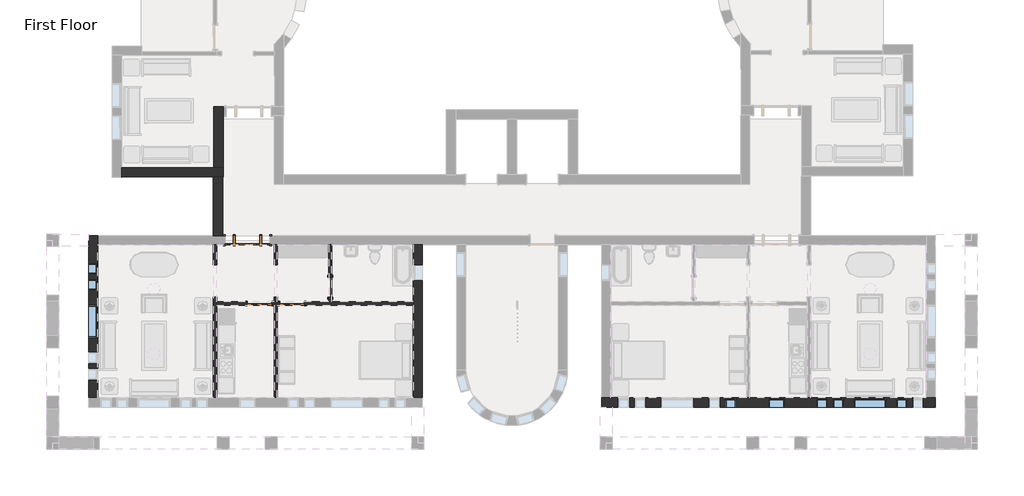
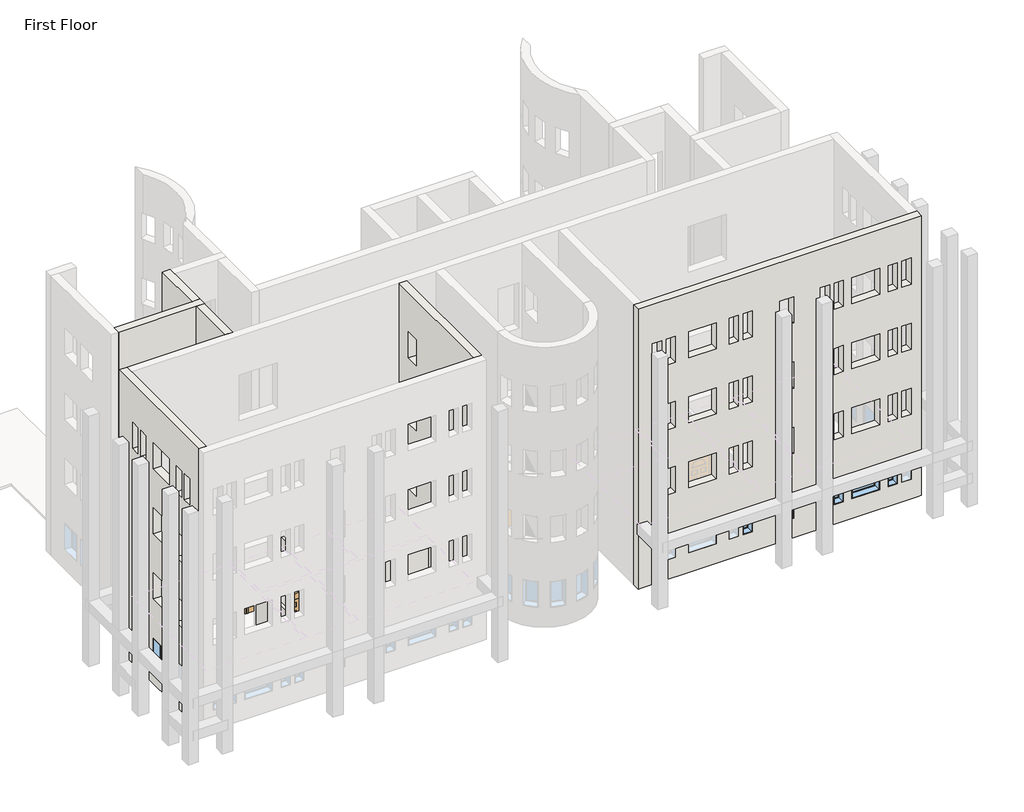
# One storey, part 3 of 21: 11 walls, 9 windows, 4 doors.
"""IFC4 building model written with IfcOpenShell, lengths in millimetres."""

from ifc_helpers import new_model, si_unit, frame, origin, origin_with_axes, place, context, project, spatial, polyline, outline, extrude, faceted_brep, transform, mapped, element, save
from components import door_829da954, door_2e3b4da2, door_4d6c7550, door_dba5aa2e, window_da97879f, window_d61ef850, window_ed80354a, window_6eb97611, window_d89bf842

model = new_model("IFC4")

# Units and contexts
model_context = context("Model", 3, world=origin())
ifc_project = project(units=[si_unit("LENGTHUNIT", "METRE", prefix="MILLI")], contexts=[model_context])

# Site, building, storey
site = spatial("IfcSite", under=ifc_project)
building = spatial("IfcBuilding", under=site)
storey = spatial("IfcBuildingStorey", under=building, Name="First Floor", Elevation=0.0)

# Doors
placement = place(None, origin())
door_shape = door_829da954(model_context)
element("IfcDoor", 1, ObjectType="Single-Decorative 2 : 36\" x 84\"", at=placement, inside=storey, context=model_context, shape_type="MappedRepresentation", body=[
    mapped(door_shape, transform((-24420.4839563, -30331.8808133, 0.0), x_axis=(1.0, 0.0, 0.0), y_axis=(0.0, 1.0, 0.0), z_axis=(0.0, 0.0, 1.0))),
])
door_2_shape = door_2e3b4da2(model_context)
element("IfcDoor", 2, ObjectType="Single-Decorative 2 : 36\" x 84\"", at=placement, inside=storey, context=model_context, shape_type="MappedRepresentation", body=[
    mapped(door_2_shape, transform((-23201.2839563, -30331.8808133, 0.0), x_axis=(-1.0, 0.0, 0.0), y_axis=(0.0, -1.0, 0.0), z_axis=(0.0, 0.0, 1.0))),
])
door_3_shape = door_4d6c7550(model_context)
element("IfcDoor", 3, ObjectType="Single-Flush : 30\" x 84\"", at=placement, inside=storey, context=model_context, shape_type="MappedRepresentation", body=[
    mapped(door_3_shape, transform((-21764.5964563, -29722.2808133, 0.0), x_axis=(0.0, -1.0, 0.0), y_axis=(1.0, 0.0, 0.0), z_axis=(0.0, 0.0, 1.0))),
])
door_4_shape = door_dba5aa2e(model_context)
element("IfcDoor", 4, ObjectType="Single-Raised Panel with Sidelights : 36\" x 84\"", at=placement, inside=storey, context=model_context, shape_type="MappedRepresentation", body=[
    mapped(door_4_shape, transform((-24877.6839563, -27958.5683133, 0.0), x_axis=(1.0, 0.0, 0.0), y_axis=(0.0, 1.0, 0.0), z_axis=(0.0, 0.0, 1.0))),
])

# Walls
element("IfcWall", 5, ObjectType="Exterior - Brick on Mtl. Stud", at=placement, inside=storey, context=model_context, shape_type="Brep", body=[
    faceted_brep([(-11569.6714563, -34230.7808133, 13106.4), (974.7535437, -34230.7808133, 13106.4), (974.7535437, -33878.3558133, 13106.4), (622.3285437, -33878.3558133, 13106.4), (-11217.2464563, -33878.3558133, 13106.4), (-11569.6714563, -33878.3558133, 13106.4), (-11569.6714563, -34230.7808133, 0.0), (-11382.3464563, -34230.7808133, 0.0), (787.4285437, -34230.7808133, 0.0), (974.7535437, -34230.7808133, 0.0), (-90.4589563, -34230.7808133, 8229.6), (-90.4589563, -34230.7808133, 7010.4), (-496.8589563, -34230.7808133, 7010.4), (-496.8589563, -34230.7808133, 8229.6), (519.1410437, -34230.7808133, 8229.6), (519.1410437, -34230.7808133, 7010.4), (112.7410437, -34230.7808133, 7010.4), (112.7410437, -34230.7808133, 8229.6), (-2884.4589563, -34230.7808133, 8229.6), (-2478.0589563, -34230.7808133, 8229.6), (-2478.0589563, -34230.7808133, 7010.4), (-2884.4589563, -34230.7808133, 7010.4), (-3494.0589563, -34230.7808133, 8229.6), (-3087.6589563, -34230.7808133, 8229.6), (-3087.6589563, -34230.7808133, 7010.4), (-3494.0589563, -34230.7808133, 7010.4), (-7126.2589563, -34230.7808133, 8229.6), (-7126.2589563, -34230.7808133, 7010.4), (-7532.6589563, -34230.7808133, 7010.4), (-7532.6589563, -34230.7808133, 8229.6), (-6516.6589563, -34230.7808133, 8229.6), (-6516.6589563, -34230.7808133, 7010.4), (-6923.0589563, -34230.7808133, 7010.4), (-6923.0589563, -34230.7808133, 8229.6), (-10326.6589563, -34230.7808133, 8229.6), (-9920.2589563, -34230.7808133, 8229.6), (-9920.2589563, -34230.7808133, 7010.4), (-10326.6589563, -34230.7808133, 7010.4), (-10936.2589563, -34230.7808133, 8229.6), (-10529.8589563, -34230.7808133, 8229.6), (-10529.8589563, -34230.7808133, 7010.4), (-10936.2589563, -34230.7808133, 7010.4), (-2097.0589563, -34230.7808133, 8229.6), (-877.8589563, -34230.7808133, 8229.6), (-877.8589563, -34230.7808133, 7010.4), (-2097.0589563, -34230.7808133, 7010.4), (-9336.0589563, -34230.7808133, 8229.6), (-8116.8589563, -34230.7808133, 8229.6), (-8116.8589563, -34230.7808133, 7010.4), (-9336.0589563, -34230.7808133, 7010.4), (-5297.4589563, -34230.7808133, 8229.6), (-4687.8589563, -34230.7808133, 8229.6), (-4687.8589563, -34230.7808133, 7010.4), (-5297.4589563, -34230.7808133, 7010.4), (-90.4589563, -34230.7808133, 5181.6), (-90.4589563, -34230.7808133, 3962.4), (-496.8589563, -34230.7808133, 3962.4), (-496.8589563, -34230.7808133, 5181.6), (519.1410437, -34230.7808133, 5181.6), (519.1410437, -34230.7808133, 3962.4), (112.7410437, -34230.7808133, 3962.4), (112.7410437, -34230.7808133, 5181.6), (-2884.4589563, -34230.7808133, 5181.6), (-2478.0589563, -34230.7808133, 5181.6), (-2478.0589563, -34230.7808133, 3962.4), (-2884.4589563, -34230.7808133, 3962.4), (-3494.0589563, -34230.7808133, 5181.6), (-3087.6589563, -34230.7808133, 5181.6), (-3087.6589563, -34230.7808133, 3962.4), (-3494.0589563, -34230.7808133, 3962.4), (-7126.2589563, -34230.7808133, 5181.6), (-7126.2589563, -34230.7808133, 3962.4), (-7532.6589563, -34230.7808133, 3962.4), (-7532.6589563, -34230.7808133, 5181.6), (-6516.6589563, -34230.7808133, 5181.6), (-6516.6589563, -34230.7808133, 3962.4), (-6923.0589563, -34230.7808133, 3962.4), (-6923.0589563, -34230.7808133, 5181.6), (-10326.6589563, -34230.7808133, 5181.6), (-9920.2589563, -34230.7808133, 5181.6), (-9920.2589563, -34230.7808133, 3962.4), (-10326.6589563, -34230.7808133, 3962.4), (-10936.2589563, -34230.7808133, 5181.6), (-10529.8589563, -34230.7808133, 5181.6), (-10529.8589563, -34230.7808133, 3962.4), (-10936.2589563, -34230.7808133, 3962.4), (-2097.0589563, -34230.7808133, 5181.6), (-877.8589563, -34230.7808133, 5181.6), (-877.8589563, -34230.7808133, 3962.4), (-2097.0589563, -34230.7808133, 3962.4), (-9336.0589563, -34230.7808133, 5181.6), (-8116.8589563, -34230.7808133, 5181.6), (-8116.8589563, -34230.7808133, 3962.4), (-9336.0589563, -34230.7808133, 3962.4), (-5297.4589563, -34230.7808133, 5181.6), (-4687.8589563, -34230.7808133, 5181.6), (-4687.8589563, -34230.7808133, 3962.4), (-5297.4589563, -34230.7808133, 3962.4), (-90.4589563, -34230.7808133, 11277.6), (-90.4589563, -34230.7808133, 10058.4), (-496.8589563, -34230.7808133, 10058.4), (-496.8589563, -34230.7808133, 11277.6), (519.1410437, -34230.7808133, 11277.6), (519.1410437, -34230.7808133, 10058.4), (112.7410437, -34230.7808133, 10058.4), (112.7410437, -34230.7808133, 11277.6), (-2884.4589563, -34230.7808133, 11277.6), (-2478.0589563, -34230.7808133, 11277.6), (-2478.0589563, -34230.7808133, 10058.4), (-2884.4589563, -34230.7808133, 10058.4), (-3494.0589563, -34230.7808133, 11277.6), (-3087.6589563, -34230.7808133, 11277.6), (-3087.6589563, -34230.7808133, 10058.4), (-3494.0589563, -34230.7808133, 10058.4), (-7126.2589563, -34230.7808133, 11277.6), (-7126.2589563, -34230.7808133, 10058.4), (-7532.6589563, -34230.7808133, 10058.4), (-7532.6589563, -34230.7808133, 11277.6), (-6516.6589563, -34230.7808133, 11277.6), (-6516.6589563, -34230.7808133, 10058.4), (-6923.0589563, -34230.7808133, 10058.4), (-6923.0589563, -34230.7808133, 11277.6), (-10326.6589563, -34230.7808133, 11277.6), (-9920.2589563, -34230.7808133, 11277.6), (-9920.2589563, -34230.7808133, 10058.4), (-10326.6589563, -34230.7808133, 10058.4), (-10936.2589563, -34230.7808133, 11277.6), (-10529.8589563, -34230.7808133, 11277.6), (-10529.8589563, -34230.7808133, 10058.4), (-10936.2589563, -34230.7808133, 10058.4), (-2097.0589563, -34230.7808133, 11277.6), (-877.8589563, -34230.7808133, 11277.6), (-877.8589563, -34230.7808133, 10058.4), (-2097.0589563, -34230.7808133, 10058.4), (-9336.0589563, -34230.7808133, 11277.6), (-8116.8589563, -34230.7808133, 11277.6), (-8116.8589563, -34230.7808133, 10058.4), (-9336.0589563, -34230.7808133, 10058.4), (-5297.4589563, -34230.7808133, 11277.6), (-4687.8589563, -34230.7808133, 11277.6), (-4687.8589563, -34230.7808133, 10058.4), (-5297.4589563, -34230.7808133, 10058.4), (-90.4589563, -34230.7808133, 2133.6), (-90.4589563, -34230.7808133, 914.4), (-496.8589563, -34230.7808133, 914.4), (-496.8589563, -34230.7808133, 2133.6), (519.1410437, -34230.7808133, 2133.6), (519.1410437, -34230.7808133, 914.4), (112.7410437, -34230.7808133, 914.4), (112.7410437, -34230.7808133, 2133.6), (-2884.4589563, -34230.7808133, 2133.6), (-2478.0589563, -34230.7808133, 2133.6), (-2478.0589563, -34230.7808133, 914.4), (-2884.4589563, -34230.7808133, 914.4), (-3494.0589563, -34230.7808133, 2133.6), (-3087.6589563, -34230.7808133, 2133.6), (-3087.6589563, -34230.7808133, 914.4), (-3494.0589563, -34230.7808133, 914.4), (-7126.2589563, -34230.7808133, 2133.6), (-7126.2589563, -34230.7808133, 914.4), (-7532.6589563, -34230.7808133, 914.4), (-7532.6589563, -34230.7808133, 2133.6), (-6516.6589563, -34230.7808133, 2133.6), (-6516.6589563, -34230.7808133, 914.4), (-6923.0589563, -34230.7808133, 914.4), (-6923.0589563, -34230.7808133, 2133.6), (-10326.6589563, -34230.7808133, 2133.6), (-9920.2589563, -34230.7808133, 2133.6), (-9920.2589563, -34230.7808133, 914.4), (-10326.6589563, -34230.7808133, 914.4), (-10936.2589563, -34230.7808133, 2133.6), (-10529.8589563, -34230.7808133, 2133.6), (-10529.8589563, -34230.7808133, 914.4), (-10936.2589563, -34230.7808133, 914.4), (-2097.0589563, -34230.7808133, 2133.6), (-877.8589563, -34230.7808133, 2133.6), (-877.8589563, -34230.7808133, 914.4), (-2097.0589563, -34230.7808133, 914.4), (-9336.0589563, -34230.7808133, 2133.6), (-8116.8589563, -34230.7808133, 2133.6), (-8116.8589563, -34230.7808133, 914.4), (-9336.0589563, -34230.7808133, 914.4), (-5297.4589563, -34230.7808133, 2133.6), (-4687.8589563, -34230.7808133, 2133.6), (-4687.8589563, -34230.7808133, 914.4), (-5297.4589563, -34230.7808133, 914.4), (-11569.6714563, -33878.3558133, 0.0), (974.7535437, -33878.3558133, 0.0), (787.4285437, -33878.3558133, 0.0), (622.3285437, -33878.3558133, 0.0), (-3709.9589563, -33878.3558133, 0.0), (-3836.9589563, -33878.3558133, 0.0), (-5995.9589563, -33878.3558133, 0.0), (-6122.9589563, -33878.3558133, 0.0), (-11217.2464563, -33878.3558133, 0.0), (-11382.3464563, -33878.3558133, 0.0), (-90.4589563, -33878.3558133, 8229.6), (-496.8589563, -33878.3558133, 8229.6), (-496.8589563, -33878.3558133, 7010.4), (-90.4589563, -33878.3558133, 7010.4), (519.1410437, -33878.3558133, 8229.6), (112.7410437, -33878.3558133, 8229.6), (112.7410437, -33878.3558133, 7010.4), (519.1410437, -33878.3558133, 7010.4), (-2884.4589563, -33878.3558133, 8229.6), (-2884.4589563, -33878.3558133, 7010.4), (-2478.0589563, -33878.3558133, 7010.4), (-2478.0589563, -33878.3558133, 8229.6), (-3494.0589563, -33878.3558133, 8229.6), (-3494.0589563, -33878.3558133, 7010.4), (-3087.6589563, -33878.3558133, 7010.4), (-3087.6589563, -33878.3558133, 8229.6), (-7126.2589563, -33878.3558133, 8229.6), (-7532.6589563, -33878.3558133, 8229.6), (-7532.6589563, -33878.3558133, 7010.4), (-7126.2589563, -33878.3558133, 7010.4), (-6516.6589563, -33878.3558133, 8229.6), (-6923.0589563, -33878.3558133, 8229.6), (-6923.0589563, -33878.3558133, 7010.4), (-6516.6589563, -33878.3558133, 7010.4), (-10326.6589563, -33878.3558133, 8229.6), (-10326.6589563, -33878.3558133, 7010.4), (-9920.2589563, -33878.3558133, 7010.4), (-9920.2589563, -33878.3558133, 8229.6), (-10936.2589563, -33878.3558133, 8229.6), (-10936.2589563, -33878.3558133, 7010.4), (-10529.8589563, -33878.3558133, 7010.4), (-10529.8589563, -33878.3558133, 8229.6), (-2097.0589563, -33878.3558133, 8229.6), (-2097.0589563, -33878.3558133, 7010.4), (-877.8589563, -33878.3558133, 7010.4), (-877.8589563, -33878.3558133, 8229.6), (-9336.0589563, -33878.3558133, 8229.6), (-9336.0589563, -33878.3558133, 7010.4), (-8116.8589563, -33878.3558133, 7010.4), (-8116.8589563, -33878.3558133, 8229.6), (-5297.4589563, -33878.3558133, 8229.6), (-5297.4589563, -33878.3558133, 7010.4), (-4687.8589563, -33878.3558133, 7010.4), (-4687.8589563, -33878.3558133, 8229.6), (-90.4589563, -33878.3558133, 5181.6), (-496.8589563, -33878.3558133, 5181.6), (-496.8589563, -33878.3558133, 3962.4), (-90.4589563, -33878.3558133, 3962.4), (519.1410437, -33878.3558133, 5181.6), (112.7410437, -33878.3558133, 5181.6), (112.7410437, -33878.3558133, 3962.4), (519.1410437, -33878.3558133, 3962.4), (-2884.4589563, -33878.3558133, 5181.6), (-2884.4589563, -33878.3558133, 3962.4), (-2478.0589563, -33878.3558133, 3962.4), (-2478.0589563, -33878.3558133, 5181.6), (-3494.0589563, -33878.3558133, 5181.6), (-3494.0589563, -33878.3558133, 3962.4), (-3087.6589563, -33878.3558133, 3962.4), (-3087.6589563, -33878.3558133, 5181.6), (-7126.2589563, -33878.3558133, 5181.6), (-7532.6589563, -33878.3558133, 5181.6), (-7532.6589563, -33878.3558133, 3962.4), (-7126.2589563, -33878.3558133, 3962.4), (-6516.6589563, -33878.3558133, 5181.6), (-6923.0589563, -33878.3558133, 5181.6), (-6923.0589563, -33878.3558133, 3962.4), (-6516.6589563, -33878.3558133, 3962.4), (-10326.6589563, -33878.3558133, 5181.6), (-10326.6589563, -33878.3558133, 3962.4), (-9920.2589563, -33878.3558133, 3962.4), (-9920.2589563, -33878.3558133, 5181.6), (-10936.2589563, -33878.3558133, 5181.6), (-10936.2589563, -33878.3558133, 3962.4), (-10529.8589563, -33878.3558133, 3962.4), (-10529.8589563, -33878.3558133, 5181.6), (-2097.0589563, -33878.3558133, 5181.6), (-2097.0589563, -33878.3558133, 3962.4), (-877.8589563, -33878.3558133, 3962.4), (-877.8589563, -33878.3558133, 5181.6), (-9336.0589563, -33878.3558133, 5181.6), (-9336.0589563, -33878.3558133, 3962.4), (-8116.8589563, -33878.3558133, 3962.4), (-8116.8589563, -33878.3558133, 5181.6), (-5297.4589563, -33878.3558133, 5181.6), (-5297.4589563, -33878.3558133, 3962.4), (-4687.8589563, -33878.3558133, 3962.4), (-4687.8589563, -33878.3558133, 5181.6), (-90.4589563, -33878.3558133, 11277.6), (-496.8589563, -33878.3558133, 11277.6), (-496.8589563, -33878.3558133, 10058.4), (-90.4589563, -33878.3558133, 10058.4), (519.1410437, -33878.3558133, 11277.6), (112.7410437, -33878.3558133, 11277.6), (112.7410437, -33878.3558133, 10058.4), (519.1410437, -33878.3558133, 10058.4), (-2884.4589563, -33878.3558133, 11277.6), (-2884.4589563, -33878.3558133, 10058.4), (-2478.0589563, -33878.3558133, 10058.4), (-2478.0589563, -33878.3558133, 11277.6), (-3494.0589563, -33878.3558133, 11277.6), (-3494.0589563, -33878.3558133, 10058.4), (-3087.6589563, -33878.3558133, 10058.4), (-3087.6589563, -33878.3558133, 11277.6), (-7126.2589563, -33878.3558133, 11277.6), (-7532.6589563, -33878.3558133, 11277.6), (-7532.6589563, -33878.3558133, 10058.4), (-7126.2589563, -33878.3558133, 10058.4), (-6516.6589563, -33878.3558133, 11277.6), (-6923.0589563, -33878.3558133, 11277.6), (-6923.0589563, -33878.3558133, 10058.4), (-6516.6589563, -33878.3558133, 10058.4), (-10326.6589563, -33878.3558133, 11277.6), (-10326.6589563, -33878.3558133, 10058.4), (-9920.2589563, -33878.3558133, 10058.4), (-9920.2589563, -33878.3558133, 11277.6), (-10936.2589563, -33878.3558133, 11277.6), (-10936.2589563, -33878.3558133, 10058.4), (-10529.8589563, -33878.3558133, 10058.4), (-10529.8589563, -33878.3558133, 11277.6), (-2097.0589563, -33878.3558133, 11277.6), (-2097.0589563, -33878.3558133, 10058.4), (-877.8589563, -33878.3558133, 10058.4), (-877.8589563, -33878.3558133, 11277.6), (-9336.0589563, -33878.3558133, 11277.6), (-9336.0589563, -33878.3558133, 10058.4), (-8116.8589563, -33878.3558133, 10058.4), (-8116.8589563, -33878.3558133, 11277.6), (-5297.4589563, -33878.3558133, 11277.6), (-5297.4589563, -33878.3558133, 10058.4), (-4687.8589563, -33878.3558133, 10058.4), (-4687.8589563, -33878.3558133, 11277.6), (-90.4589563, -33878.3558133, 2133.6), (-496.8589563, -33878.3558133, 2133.6), (-496.8589563, -33878.3558133, 914.4), (-90.4589563, -33878.3558133, 914.4), (519.1410437, -33878.3558133, 2133.6), (112.7410437, -33878.3558133, 2133.6), (112.7410437, -33878.3558133, 914.4), (519.1410437, -33878.3558133, 914.4), (-2884.4589563, -33878.3558133, 2133.6), (-2884.4589563, -33878.3558133, 914.4), (-2478.0589563, -33878.3558133, 914.4), (-2478.0589563, -33878.3558133, 2133.6), (-3494.0589563, -33878.3558133, 2133.6), (-3494.0589563, -33878.3558133, 914.4), (-3087.6589563, -33878.3558133, 914.4), (-3087.6589563, -33878.3558133, 2133.6), (-7126.2589563, -33878.3558133, 2133.6), (-7532.6589563, -33878.3558133, 2133.6), (-7532.6589563, -33878.3558133, 914.4), (-7126.2589563, -33878.3558133, 914.4), (-6516.6589563, -33878.3558133, 2133.6), (-6923.0589563, -33878.3558133, 2133.6), (-6923.0589563, -33878.3558133, 914.4), (-6516.6589563, -33878.3558133, 914.4), (-10326.6589563, -33878.3558133, 2133.6), (-10326.6589563, -33878.3558133, 914.4), (-9920.2589563, -33878.3558133, 914.4), (-9920.2589563, -33878.3558133, 2133.6), (-10936.2589563, -33878.3558133, 2133.6), (-10936.2589563, -33878.3558133, 914.4), (-10529.8589563, -33878.3558133, 914.4), (-10529.8589563, -33878.3558133, 2133.6), (-2097.0589563, -33878.3558133, 2133.6), (-2097.0589563, -33878.3558133, 914.4), (-877.8589563, -33878.3558133, 914.4), (-877.8589563, -33878.3558133, 2133.6), (-9336.0589563, -33878.3558133, 2133.6), (-9336.0589563, -33878.3558133, 914.4), (-8116.8589563, -33878.3558133, 914.4), (-8116.8589563, -33878.3558133, 2133.6), (-5297.4589563, -33878.3558133, 2133.6), (-5297.4589563, -33878.3558133, 914.4), (-4687.8589563, -33878.3558133, 914.4), (-4687.8589563, -33878.3558133, 2133.6), (974.7535437, -34043.4558133, 0.0), (-11569.6714563, -34043.4558133, 0.0), (787.4285437, -34043.4558133, 0.0), (-11382.3464563, -34043.4558133, 0.0)], [[[0, 1, 2, 3, 4, 5]], [[6, 7, 8, 9, 1, 0], [10, 11, 12, 13], [14, 15, 16, 17], [18, 19, 20, 21], [22, 23, 24, 25], [26, 27, 28, 29], [30, 31, 32, 33], [34, 35, 36, 37], [38, 39, 40, 41], [42, 43, 44, 45], [46, 47, 48, 49], [50, 51, 52, 53], [54, 55, 56, 57], [58, 59, 60, 61], [62, 63, 64, 65], [66, 67, 68, 69], [70, 71, 72, 73], [74, 75, 76, 77], [78, 79, 80, 81], [82, 83, 84, 85], [86, 87, 88, 89], [90, 91, 92, 93], [94, 95, 96, 97], [98, 99, 100, 101], [102, 103, 104, 105], [106, 107, 108, 109], [110, 111, 112, 113], [114, 115, 116, 117], [118, 119, 120, 121], [122, 123, 124, 125], [126, 127, 128, 129], [130, 131, 132, 133], [134, 135, 136, 137], [138, 139, 140, 141], [142, 143, 144, 145], [146, 147, 148, 149], [150, 151, 152, 153], [154, 155, 156, 157], [158, 159, 160, 161], [162, 163, 164, 165], [166, 167, 168, 169], [170, 171, 172, 173], [174, 175, 176, 177], [178, 179, 180, 181], [182, 183, 184, 185]], [[186, 5, 4, 3, 2, 187, 188, 189, 190, 191, 192, 193, 194, 195], [196, 197, 198, 199], [200, 201, 202, 203], [204, 205, 206, 207], [208, 209, 210, 211], [212, 213, 214, 215], [216, 217, 218, 219], [220, 221, 222, 223], [224, 225, 226, 227], [228, 229, 230, 231], [232, 233, 234, 235], [236, 237, 238, 239], [240, 241, 242, 243], [244, 245, 246, 247], [248, 249, 250, 251], [252, 253, 254, 255], [256, 257, 258, 259], [260, 261, 262, 263], [264, 265, 266, 267], [268, 269, 270, 271], [272, 273, 274, 275], [276, 277, 278, 279], [280, 281, 282, 283], [284, 285, 286, 287], [288, 289, 290, 291], [292, 293, 294, 295], [296, 297, 298, 299], [300, 301, 302, 303], [304, 305, 306, 307], [308, 309, 310, 311], [312, 313, 314, 315], [316, 317, 318, 319], [320, 321, 322, 323], [324, 325, 326, 327], [328, 329, 330, 331], [332, 333, 334, 335], [336, 337, 338, 339], [340, 341, 342, 343], [344, 345, 346, 347], [348, 349, 350, 351], [352, 353, 354, 355], [356, 357, 358, 359], [360, 361, 362, 363], [364, 365, 366, 367], [368, 369, 370, 371]], [[1, 9, 372, 187, 2]], [[6, 0, 5, 186, 373]], [[374, 188, 187, 372]], [[9, 8, 374, 372]], [[8, 7, 375, 374]], [[373, 186, 195, 375]], [[7, 6, 373, 375]], [[375, 195, 194, 193, 192, 191, 190, 189, 188, 374]], [[11, 10, 196, 199]], [[12, 11, 199, 198]], [[13, 12, 198, 197]], [[10, 13, 197, 196]], [[15, 14, 200, 203]], [[16, 15, 203, 202]], [[17, 16, 202, 201]], [[14, 17, 201, 200]], [[205, 204, 18, 21]], [[206, 205, 21, 20]], [[207, 206, 20, 19]], [[204, 207, 19, 18]], [[209, 208, 22, 25]], [[210, 209, 25, 24]], [[211, 210, 24, 23]], [[208, 211, 23, 22]], [[27, 26, 212, 215]], [[28, 27, 215, 214]], [[29, 28, 214, 213]], [[26, 29, 213, 212]], [[31, 30, 216, 219]], [[32, 31, 219, 218]], [[33, 32, 218, 217]], [[30, 33, 217, 216]], [[221, 220, 34, 37]], [[222, 221, 37, 36]], [[223, 222, 36, 35]], [[220, 223, 35, 34]], [[225, 224, 38, 41]], [[226, 225, 41, 40]], [[227, 226, 40, 39]], [[224, 227, 39, 38]], [[229, 228, 42, 45]], [[230, 229, 45, 44]], [[231, 230, 44, 43]], [[228, 231, 43, 42]], [[233, 232, 46, 49]], [[234, 233, 49, 48]], [[235, 234, 48, 47]], [[232, 235, 47, 46]], [[237, 236, 50, 53]], [[238, 237, 53, 52]], [[239, 238, 52, 51]], [[236, 239, 51, 50]], [[55, 54, 240, 243]], [[56, 55, 243, 242]], [[57, 56, 242, 241]], [[54, 57, 241, 240]], [[59, 58, 244, 247]], [[60, 59, 247, 246]], [[61, 60, 246, 245]], [[58, 61, 245, 244]], [[249, 248, 62, 65]], [[250, 249, 65, 64]], [[251, 250, 64, 63]], [[248, 251, 63, 62]], [[253, 252, 66, 69]], [[254, 253, 69, 68]], [[255, 254, 68, 67]], [[252, 255, 67, 66]], [[71, 70, 256, 259]], [[72, 71, 259, 258]], [[73, 72, 258, 257]], [[70, 73, 257, 256]], [[75, 74, 260, 263]], [[76, 75, 263, 262]], [[77, 76, 262, 261]], [[74, 77, 261, 260]], [[265, 264, 78, 81]], [[266, 265, 81, 80]], [[267, 266, 80, 79]], [[264, 267, 79, 78]], [[269, 268, 82, 85]], [[270, 269, 85, 84]], [[271, 270, 84, 83]], [[268, 271, 83, 82]], [[273, 272, 86, 89]], [[274, 273, 89, 88]], [[275, 274, 88, 87]], [[272, 275, 87, 86]], [[277, 276, 90, 93]], [[278, 277, 93, 92]], [[279, 278, 92, 91]], [[276, 279, 91, 90]], [[281, 280, 94, 97]], [[282, 281, 97, 96]], [[283, 282, 96, 95]], [[280, 283, 95, 94]], [[99, 98, 284, 287]], [[100, 99, 287, 286]], [[101, 100, 286, 285]], [[98, 101, 285, 284]], [[103, 102, 288, 291]], [[104, 103, 291, 290]], [[105, 104, 290, 289]], [[102, 105, 289, 288]], [[293, 292, 106, 109]], [[294, 293, 109, 108]], [[295, 294, 108, 107]], [[292, 295, 107, 106]], [[297, 296, 110, 113]], [[298, 297, 113, 112]], [[299, 298, 112, 111]], [[296, 299, 111, 110]], [[115, 114, 300, 303]], [[116, 115, 303, 302]], [[117, 116, 302, 301]], [[114, 117, 301, 300]], [[119, 118, 304, 307]], [[120, 119, 307, 306]], [[121, 120, 306, 305]], [[118, 121, 305, 304]], [[309, 308, 122, 125]], [[310, 309, 125, 124]], [[311, 310, 124, 123]], [[308, 311, 123, 122]], [[313, 312, 126, 129]], [[314, 313, 129, 128]], [[315, 314, 128, 127]], [[312, 315, 127, 126]], [[317, 316, 130, 133]], [[318, 317, 133, 132]], [[319, 318, 132, 131]], [[316, 319, 131, 130]], [[321, 320, 134, 137]], [[322, 321, 137, 136]], [[323, 322, 136, 135]], [[320, 323, 135, 134]], [[325, 324, 138, 141]], [[326, 325, 141, 140]], [[327, 326, 140, 139]], [[324, 327, 139, 138]], [[143, 142, 328, 331]], [[144, 143, 331, 330]], [[145, 144, 330, 329]], [[142, 145, 329, 328]], [[147, 146, 332, 335]], [[148, 147, 335, 334]], [[149, 148, 334, 333]], [[146, 149, 333, 332]], [[337, 336, 150, 153]], [[338, 337, 153, 152]], [[339, 338, 152, 151]], [[336, 339, 151, 150]], [[341, 340, 154, 157]], [[342, 341, 157, 156]], [[343, 342, 156, 155]], [[340, 343, 155, 154]], [[159, 158, 344, 347]], [[160, 159, 347, 346]], [[161, 160, 346, 345]], [[158, 161, 345, 344]], [[163, 162, 348, 351]], [[164, 163, 351, 350]], [[165, 164, 350, 349]], [[162, 165, 349, 348]], [[353, 352, 166, 169]], [[354, 353, 169, 168]], [[355, 354, 168, 167]], [[352, 355, 167, 166]], [[357, 356, 170, 173]], [[358, 357, 173, 172]], [[359, 358, 172, 171]], [[356, 359, 171, 170]], [[361, 360, 174, 177]], [[362, 361, 177, 176]], [[363, 362, 176, 175]], [[360, 363, 175, 174]], [[365, 364, 178, 181]], [[366, 365, 181, 180]], [[367, 366, 180, 179]], [[364, 367, 179, 178]], [[369, 368, 182, 185]], [[370, 369, 185, 184]], [[371, 370, 184, 183]], [[368, 371, 183, 182]]]),
])
element("IfcWall", 6, ObjectType="Exterior - Brick on Mtl. Stud", at=placement, inside=storey, context=model_context, shape_type="SweptSolid", body=[
    extrude(outline(polyline([(-26160.3839563, -27782.3558133), (-26160.3839563, -25578.8852222), (-25807.9589563, -25578.0828813), (-25807.9589563, -27782.3558133), (-26160.3839563, -27782.3558133)])), origin_with_axes(), (0.0, 0.0, 1.0), 13106.4),
])
element("IfcWall", 7, ObjectType="Exterior - Brick on Mtl. Stud", at=placement, inside=storey, context=model_context, shape_type="Brep", body=[
    faceted_brep([(-30492.6714563, -33878.3558133, 13106.4), (-30492.6714563, -28134.7808133, 13106.4), (-30492.6714563, -27782.3558133, 13106.4), (-30845.0964563, -27782.3558133, 13106.4), (-30845.0964563, -33878.3558133, 13106.4), (-30492.6714563, -33878.3558133, 0.0), (-30492.6714563, -28134.7808133, 0.0), (-30492.6714563, -27969.6808133, 0.0), (-30492.6714563, -27782.3558133, 0.0), (-30492.6714563, -29431.7683133, 8229.6), (-30492.6714563, -29431.7683133, 7010.4), (-30492.6714563, -29838.1683133, 7010.4), (-30492.6714563, -29838.1683133, 8229.6), (-30492.6714563, -28822.1683133, 8229.6), (-30492.6714563, -28822.1683133, 7010.4), (-30492.6714563, -29228.5683133, 7010.4), (-30492.6714563, -29228.5683133, 8229.6), (-30492.6714563, -32581.3683133, 8229.6), (-30492.6714563, -32174.9683133, 8229.6), (-30492.6714563, -32174.9683133, 7010.4), (-30492.6714563, -32581.3683133, 7010.4), (-30492.6714563, -33190.9683133, 8229.6), (-30492.6714563, -32784.5683133, 8229.6), (-30492.6714563, -32784.5683133, 7010.4), (-30492.6714563, -33190.9683133, 7010.4), (-30492.6714563, -31616.1683133, 8229.6), (-30492.6714563, -30396.9683133, 8229.6), (-30492.6714563, -30396.9683133, 7010.4), (-30492.6714563, -31616.1683133, 7010.4), (-30492.6714563, -29431.7683133, 5181.6), (-30492.6714563, -29431.7683133, 3962.4), (-30492.6714563, -29838.1683133, 3962.4), (-30492.6714563, -29838.1683133, 5181.6), (-30492.6714563, -28822.1683133, 5181.6), (-30492.6714563, -28822.1683133, 3962.4), (-30492.6714563, -29228.5683133, 3962.4), (-30492.6714563, -29228.5683133, 5181.6), (-30492.6714563, -32581.3683133, 5181.6), (-30492.6714563, -32174.9683133, 5181.6), (-30492.6714563, -32174.9683133, 3962.4), (-30492.6714563, -32581.3683133, 3962.4), (-30492.6714563, -33190.9683133, 5181.6), (-30492.6714563, -32784.5683133, 5181.6), (-30492.6714563, -32784.5683133, 3962.4), (-30492.6714563, -33190.9683133, 3962.4), (-30492.6714563, -31616.1683133, 5181.6), (-30492.6714563, -30396.9683133, 5181.6), (-30492.6714563, -30396.9683133, 3962.4), (-30492.6714563, -31616.1683133, 3962.4), (-30492.6714563, -29431.7683133, 11277.6), (-30492.6714563, -29431.7683133, 10058.4), (-30492.6714563, -29838.1683133, 10058.4), (-30492.6714563, -29838.1683133, 11277.6), (-30492.6714563, -28822.1683133, 11277.6), (-30492.6714563, -28822.1683133, 10058.4), (-30492.6714563, -29228.5683133, 10058.4), (-30492.6714563, -29228.5683133, 11277.6), (-30492.6714563, -32581.3683133, 11277.6), (-30492.6714563, -32174.9683133, 11277.6), (-30492.6714563, -32174.9683133, 10058.4), (-30492.6714563, -32581.3683133, 10058.4), (-30492.6714563, -33190.9683133, 11277.6), (-30492.6714563, -32784.5683133, 11277.6), (-30492.6714563, -32784.5683133, 10058.4), (-30492.6714563, -33190.9683133, 10058.4), (-30492.6714563, -31616.1683133, 11277.6), (-30492.6714563, -30396.9683133, 11277.6), (-30492.6714563, -30396.9683133, 10058.4), (-30492.6714563, -31616.1683133, 10058.4), (-30492.6714563, -29431.7683133, 2133.6), (-30492.6714563, -29431.7683133, 914.4), (-30492.6714563, -29838.1683133, 914.4), (-30492.6714563, -29838.1683133, 2133.6), (-30492.6714563, -28822.1683133, 2133.6), (-30492.6714563, -28822.1683133, 914.4), (-30492.6714563, -29228.5683133, 914.4), (-30492.6714563, -29228.5683133, 2133.6), (-30492.6714563, -32581.3683133, 2133.6), (-30492.6714563, -32174.9683133, 2133.6), (-30492.6714563, -32174.9683133, 914.4), (-30492.6714563, -32581.3683133, 914.4), (-30492.6714563, -33190.9683133, 2133.6), (-30492.6714563, -32784.5683133, 2133.6), (-30492.6714563, -32784.5683133, 914.4), (-30492.6714563, -33190.9683133, 914.4), (-30492.6714563, -31616.1683133, 2133.6), (-30492.6714563, -30396.9683133, 2133.6), (-30492.6714563, -30396.9683133, 914.4), (-30492.6714563, -31616.1683133, 914.4), (-30845.0964563, -33878.3558133, 0.0), (-30845.0964563, -27782.3558133, 0.0), (-30845.0964563, -27969.6808133, 0.0), (-30845.0964563, -29431.7683133, 8229.6), (-30845.0964563, -29838.1683133, 8229.6), (-30845.0964563, -29838.1683133, 7010.4), (-30845.0964563, -29431.7683133, 7010.4), (-30845.0964563, -28822.1683133, 8229.6), (-30845.0964563, -29228.5683133, 8229.6), (-30845.0964563, -29228.5683133, 7010.4), (-30845.0964563, -28822.1683133, 7010.4), (-30845.0964563, -32581.3683133, 8229.6), (-30845.0964563, -32581.3683133, 7010.4), (-30845.0964563, -32174.9683133, 7010.4), (-30845.0964563, -32174.9683133, 8229.6), (-30845.0964563, -33190.9683133, 8229.6), (-30845.0964563, -33190.9683133, 7010.4), (-30845.0964563, -32784.5683133, 7010.4), (-30845.0964563, -32784.5683133, 8229.6), (-30845.0964563, -31616.1683133, 8229.6), (-30845.0964563, -31616.1683133, 7010.4), (-30845.0964563, -30396.9683133, 7010.4), (-30845.0964563, -30396.9683133, 8229.6), (-30845.0964563, -29431.7683133, 5181.6), (-30845.0964563, -29838.1683133, 5181.6), (-30845.0964563, -29838.1683133, 3962.4), (-30845.0964563, -29431.7683133, 3962.4), (-30845.0964563, -28822.1683133, 5181.6), (-30845.0964563, -29228.5683133, 5181.6), (-30845.0964563, -29228.5683133, 3962.4), (-30845.0964563, -28822.1683133, 3962.4), (-30845.0964563, -32581.3683133, 5181.6), (-30845.0964563, -32581.3683133, 3962.4), (-30845.0964563, -32174.9683133, 3962.4), (-30845.0964563, -32174.9683133, 5181.6), (-30845.0964563, -33190.9683133, 5181.6), (-30845.0964563, -33190.9683133, 3962.4), (-30845.0964563, -32784.5683133, 3962.4), (-30845.0964563, -32784.5683133, 5181.6), (-30845.0964563, -31616.1683133, 5181.6), (-30845.0964563, -31616.1683133, 3962.4), (-30845.0964563, -30396.9683133, 3962.4), (-30845.0964563, -30396.9683133, 5181.6), (-30845.0964563, -29431.7683133, 11277.6), (-30845.0964563, -29838.1683133, 11277.6), (-30845.0964563, -29838.1683133, 10058.4), (-30845.0964563, -29431.7683133, 10058.4), (-30845.0964563, -28822.1683133, 11277.6), (-30845.0964563, -29228.5683133, 11277.6), (-30845.0964563, -29228.5683133, 10058.4), (-30845.0964563, -28822.1683133, 10058.4), (-30845.0964563, -32581.3683133, 11277.6), (-30845.0964563, -32581.3683133, 10058.4), (-30845.0964563, -32174.9683133, 10058.4), (-30845.0964563, -32174.9683133, 11277.6), (-30845.0964563, -33190.9683133, 11277.6), (-30845.0964563, -33190.9683133, 10058.4), (-30845.0964563, -32784.5683133, 10058.4), (-30845.0964563, -32784.5683133, 11277.6), (-30845.0964563, -31616.1683133, 11277.6), (-30845.0964563, -31616.1683133, 10058.4), (-30845.0964563, -30396.9683133, 10058.4), (-30845.0964563, -30396.9683133, 11277.6), (-30845.0964563, -29431.7683133, 2133.6), (-30845.0964563, -29838.1683133, 2133.6), (-30845.0964563, -29838.1683133, 914.4), (-30845.0964563, -29431.7683133, 914.4), (-30845.0964563, -28822.1683133, 2133.6), (-30845.0964563, -29228.5683133, 2133.6), (-30845.0964563, -29228.5683133, 914.4), (-30845.0964563, -28822.1683133, 914.4), (-30845.0964563, -32581.3683133, 2133.6), (-30845.0964563, -32581.3683133, 914.4), (-30845.0964563, -32174.9683133, 914.4), (-30845.0964563, -32174.9683133, 2133.6), (-30845.0964563, -33190.9683133, 2133.6), (-30845.0964563, -33190.9683133, 914.4), (-30845.0964563, -32784.5683133, 914.4), (-30845.0964563, -32784.5683133, 2133.6), (-30845.0964563, -31616.1683133, 2133.6), (-30845.0964563, -31616.1683133, 914.4), (-30845.0964563, -30396.9683133, 914.4), (-30845.0964563, -30396.9683133, 2133.6), (-30657.7714563, -33878.3558133, 0.0), (-30657.7714563, -27969.6808133, 0.0), (-30657.7714563, -27782.3558133, 0.0)], [[[0, 1, 2, 3, 4]], [[5, 6, 7, 8, 2, 1, 0], [9, 10, 11, 12], [13, 14, 15, 16], [17, 18, 19, 20], [21, 22, 23, 24], [25, 26, 27, 28], [29, 30, 31, 32], [33, 34, 35, 36], [37, 38, 39, 40], [41, 42, 43, 44], [45, 46, 47, 48], [49, 50, 51, 52], [53, 54, 55, 56], [57, 58, 59, 60], [61, 62, 63, 64], [65, 66, 67, 68], [69, 70, 71, 72], [73, 74, 75, 76], [77, 78, 79, 80], [81, 82, 83, 84], [85, 86, 87, 88]], [[89, 4, 3, 90, 91], [92, 93, 94, 95], [96, 97, 98, 99], [100, 101, 102, 103], [104, 105, 106, 107], [108, 109, 110, 111], [112, 113, 114, 115], [116, 117, 118, 119], [120, 121, 122, 123], [124, 125, 126, 127], [128, 129, 130, 131], [132, 133, 134, 135], [136, 137, 138, 139], [140, 141, 142, 143], [144, 145, 146, 147], [148, 149, 150, 151], [152, 153, 154, 155], [156, 157, 158, 159], [160, 161, 162, 163], [164, 165, 166, 167], [168, 169, 170, 171]], [[5, 0, 4, 89, 172]], [[172, 89, 91, 173]], [[8, 7, 173, 174]], [[173, 91, 90, 174]], [[7, 6, 5, 172, 173]], [[2, 8, 174, 90, 3]], [[10, 9, 92, 95]], [[11, 10, 95, 94]], [[12, 11, 94, 93]], [[9, 12, 93, 92]], [[14, 13, 96, 99]], [[15, 14, 99, 98]], [[16, 15, 98, 97]], [[13, 16, 97, 96]], [[101, 100, 17, 20]], [[102, 101, 20, 19]], [[103, 102, 19, 18]], [[100, 103, 18, 17]], [[105, 104, 21, 24]], [[106, 105, 24, 23]], [[107, 106, 23, 22]], [[104, 107, 22, 21]], [[109, 108, 25, 28]], [[110, 109, 28, 27]], [[111, 110, 27, 26]], [[108, 111, 26, 25]], [[30, 29, 112, 115]], [[31, 30, 115, 114]], [[32, 31, 114, 113]], [[29, 32, 113, 112]], [[34, 33, 116, 119]], [[35, 34, 119, 118]], [[36, 35, 118, 117]], [[33, 36, 117, 116]], [[121, 120, 37, 40]], [[122, 121, 40, 39]], [[123, 122, 39, 38]], [[120, 123, 38, 37]], [[125, 124, 41, 44]], [[126, 125, 44, 43]], [[127, 126, 43, 42]], [[124, 127, 42, 41]], [[129, 128, 45, 48]], [[130, 129, 48, 47]], [[131, 130, 47, 46]], [[128, 131, 46, 45]], [[50, 49, 132, 135]], [[51, 50, 135, 134]], [[52, 51, 134, 133]], [[49, 52, 133, 132]], [[54, 53, 136, 139]], [[55, 54, 139, 138]], [[56, 55, 138, 137]], [[53, 56, 137, 136]], [[141, 140, 57, 60]], [[142, 141, 60, 59]], [[143, 142, 59, 58]], [[140, 143, 58, 57]], [[145, 144, 61, 64]], [[146, 145, 64, 63]], [[147, 146, 63, 62]], [[144, 147, 62, 61]], [[149, 148, 65, 68]], [[150, 149, 68, 67]], [[151, 150, 67, 66]], [[148, 151, 66, 65]], [[70, 69, 152, 155]], [[71, 70, 155, 154]], [[72, 71, 154, 153]], [[69, 72, 153, 152]], [[74, 73, 156, 159]], [[75, 74, 159, 158]], [[76, 75, 158, 157]], [[73, 76, 157, 156]], [[161, 160, 77, 80]], [[162, 161, 80, 79]], [[163, 162, 79, 78]], [[160, 163, 78, 77]], [[165, 164, 81, 84]], [[166, 165, 84, 83]], [[167, 166, 83, 82]], [[164, 167, 82, 81]], [[169, 168, 85, 88]], [[170, 169, 88, 87]], [[171, 170, 87, 86]], [[168, 171, 86, 85]]]),
])
element("IfcWall", 8, ObjectType="Exterior - Brick on Mtl. Stud", at=placement, inside=storey, context=model_context, shape_type="Brep", body=[
    faceted_brep([(-18653.0964563, -28134.7808133, 13106.4), (-18653.0964563, -33878.3558133, 13106.4), (-18300.6714563, -33878.3558133, 13106.4), (-18300.6714563, -28134.7808133, 13106.4), (-18653.0964563, -28134.7808133, 0.0), (-18653.0964563, -30268.3808133, 0.0), (-18653.0964563, -30395.3808133, 0.0), (-18653.0964563, -33878.3558133, 0.0), (-18653.0964563, -28872.9683133, 8229.6), (-18653.0964563, -29482.5683133, 8229.6), (-18653.0964563, -29482.5683133, 7010.4), (-18653.0964563, -28872.9683133, 7010.4), (-18653.0964563, -28872.9683133, 5181.6), (-18653.0964563, -29482.5683133, 5181.6), (-18653.0964563, -29482.5683133, 3962.4), (-18653.0964563, -28872.9683133, 3962.4), (-18653.0964563, -28872.9683133, 11277.6), (-18653.0964563, -29482.5683133, 11277.6), (-18653.0964563, -29482.5683133, 10058.4), (-18653.0964563, -28872.9683133, 10058.4), (-18653.0964563, -28872.9683133, 2133.6), (-18653.0964563, -29482.5683133, 2133.6), (-18653.0964563, -29482.5683133, 914.4), (-18653.0964563, -28872.9683133, 914.4), (-18300.6714563, -28134.7808133, 0.0), (-18300.6714563, -33878.3558133, 0.0), (-18300.6714563, -28872.9683133, 8229.6), (-18300.6714563, -28872.9683133, 7010.4), (-18300.6714563, -29482.5683133, 7010.4), (-18300.6714563, -29482.5683133, 8229.6), (-18300.6714563, -28872.9683133, 5181.6), (-18300.6714563, -28872.9683133, 3962.4), (-18300.6714563, -29482.5683133, 3962.4), (-18300.6714563, -29482.5683133, 5181.6), (-18300.6714563, -28872.9683133, 11277.6), (-18300.6714563, -28872.9683133, 10058.4), (-18300.6714563, -29482.5683133, 10058.4), (-18300.6714563, -29482.5683133, 11277.6), (-18300.6714563, -28872.9683133, 2133.6), (-18300.6714563, -28872.9683133, 914.4), (-18300.6714563, -29482.5683133, 914.4), (-18300.6714563, -29482.5683133, 2133.6), (-18487.9964563, -33878.3558133, 0.0), (-18487.9964563, -28134.7808133, 0.0)], [[[0, 1, 2, 3]], [[4, 5, 6, 7, 1, 0], [8, 9, 10, 11], [12, 13, 14, 15], [16, 17, 18, 19], [20, 21, 22, 23]], [[24, 3, 2, 25], [26, 27, 28, 29], [30, 31, 32, 33], [34, 35, 36, 37], [38, 39, 40, 41]], [[1, 7, 42, 25, 2]], [[43, 24, 25, 42]], [[7, 6, 5, 4, 43, 42]], [[4, 0, 3, 24, 43]], [[27, 26, 8, 11]], [[28, 27, 11, 10]], [[29, 28, 10, 9]], [[26, 29, 9, 8]], [[31, 30, 12, 15]], [[32, 31, 15, 14]], [[33, 32, 14, 13]], [[30, 33, 13, 12]], [[35, 34, 16, 19]], [[36, 35, 19, 18]], [[37, 36, 18, 17]], [[34, 37, 17, 16]], [[39, 38, 20, 23]], [[40, 39, 23, 22]], [[41, 40, 22, 21]], [[38, 41, 21, 20]]]),
])
element("IfcWall", 9, ObjectType="Exterior - Brick on Mtl. Stud", at=placement, inside=storey, context=model_context, shape_type="Brep", body=[
    faceted_brep([(-29595.1036922, -25586.704804, 0.0), (-26160.3839563, -25578.8852222, 0.0), (-25807.9589563, -25578.0828813, 0.0), (-25785.1135658, -25578.0308708, 0.0), (-25785.1135658, -25578.0308708, 13106.4), (-25807.9589563, -25578.0828813, 13106.4), (-26160.3839563, -25578.8852222, 13106.4), (-29595.1036922, -25586.704804, 13106.4), (-29595.906031, -25234.2807173, 0.0), (-29595.906031, -25234.2807173, 13106.4), (-26138.3399913, -25226.4091229, 13106.4), (-25785.9159046, -25225.6067841, 13106.4), (-25785.9159046, -25225.6067841, 0.0), (-26138.3399913, -25226.4091229, 0.0)], [[[0, 1, 2, 3, 4, 5, 6, 7]], [[8, 9, 10, 11, 12, 13]], [[3, 2, 1, 0, 8, 13, 12]], [[7, 6, 5, 4, 11, 10, 9]], [[4, 3, 12, 11]], [[0, 7, 9, 8]]]),
])
element("IfcWall", 10, ObjectType="Exterior - Brick on Mtl. Stud", at=placement, inside=storey, context=model_context, shape_type="Brep", body=[
    faceted_brep([(-25785.9159046, -25225.6067841, 0.0), (-25790.3179257, -23292.036795, 0.0), (-25791.1202646, -22939.6127083, 0.0), (-25791.1202646, -22939.6127083, 13106.4), (-25790.3179257, -23292.036795, 13106.4), (-25785.9159046, -25225.6067841, 13106.4), (-26138.3399913, -25226.4091229, 0.0), (-26138.3399913, -25226.4091229, 13106.4), (-26143.5443512, -22940.4150471, 13106.4), (-26143.5443512, -22940.4150471, 0.0)], [[[0, 1, 2, 3, 4, 5]], [[6, 7, 8, 9]], [[2, 1, 0, 6, 9]], [[5, 4, 3, 8, 7]], [[3, 2, 9, 8]], [[0, 5, 7, 6]]]),
])
element("IfcWall", 11, ObjectType="Interior - 5\" Partition (2-hr)", at=placement, inside=storey, context=model_context, shape_type="Brep", body=[
    faceted_brep([(-26160.3839563, -33878.3558133, 0.0), (-26160.3839563, -30092.1683133, 0.0), (-26033.3839563, -30092.1683133, 0.0), (-26033.3839563, -30268.3808133, 0.0), (-26033.3839563, -30395.3808133, 0.0), (-26033.3839563, -33878.3558133, 0.0), (-26160.3839563, -28872.9683133, 0.0), (-26160.3839563, -28134.7808133, 0.0), (-26033.3839563, -28134.7808133, 0.0), (-26033.3839563, -28872.9683133, 0.0), (-26033.3839563, -33878.3558133, 3048.0), (-26033.3839563, -30395.3808133, 3048.0), (-26033.3839563, -30268.3808133, 3048.0), (-26033.3839563, -28134.7808133, 3048.0), (-26160.3839563, -28134.7808133, 3048.0), (-26160.3839563, -33878.3558133, 3048.0), (-26033.3839563, -30092.1683133, 2133.6), (-26033.3839563, -28872.9683133, 2133.6), (-26160.3839563, -30092.1683133, 2133.6), (-26160.3839563, -28872.9683133, 2133.6)], [[[0, 1, 2, 3, 4, 5]], [[6, 7, 8, 9]], [[10, 11, 12, 13, 14, 15]], [[5, 4, 3, 2, 16, 17, 9, 8, 13, 12, 11, 10]], [[18, 1, 0, 15, 14, 7, 6, 19]], [[5, 10, 15, 0]], [[13, 8, 7, 14]], [[9, 17, 19, 6]], [[16, 2, 1, 18]], [[17, 16, 18, 19]]]),
])
element("IfcWall", 12, ObjectType="Interior - 5\" Partition (2-hr)", at=placement, inside=storey, context=model_context, shape_type="Brep", body=[
    faceted_brep([(-23747.3839563, -28134.7808133, 0.0), (-23747.3839563, -28872.9683133, 0.0), (-23874.3839563, -28872.9683133, 0.0), (-23874.3839563, -28134.7808133, 0.0), (-23747.3839563, -30092.1683133, 0.0), (-23747.3839563, -30268.3808133, 0.0), (-23747.3839563, -30395.3808133, 0.0), (-23747.3839563, -33878.3558133, 0.0), (-23874.3839563, -33878.3558133, 0.0), (-23874.3839563, -30395.3808133, 0.0), (-23874.3839563, -30268.3808133, 0.0), (-23874.3839563, -30092.1683133, 0.0), (-23747.3839563, -33878.3558133, 3048.0), (-23747.3839563, -30395.3808133, 3048.0), (-23747.3839563, -30268.3808133, 3048.0), (-23747.3839563, -28134.7808133, 3048.0), (-23874.3839563, -28134.7808133, 3048.0), (-23874.3839563, -30268.3808133, 3048.0), (-23874.3839563, -30395.3808133, 3048.0), (-23874.3839563, -33878.3558133, 3048.0), (-23747.3839563, -28872.9683133, 2133.6), (-23747.3839563, -30092.1683133, 2133.6), (-23874.3839563, -28872.9683133, 2133.6), (-23874.3839563, -30092.1683133, 2133.6)], [[[0, 1, 2, 3]], [[4, 5, 6, 7, 8, 9, 10, 11]], [[12, 13, 14, 15, 16, 17, 18, 19]], [[20, 1, 0, 15, 14, 13, 12, 7, 6, 5, 4, 21]], [[3, 2, 22, 23, 11, 10, 9, 8, 19, 18, 17, 16]], [[7, 12, 19, 8]], [[15, 0, 3, 16]], [[11, 23, 21, 4]], [[22, 2, 1, 20]], [[23, 22, 20, 21]]]),
])
element("IfcWall", 13, ObjectType="Interior - 5\" Partition (2-hr)", at=placement, inside=storey, context=model_context, shape_type="Brep", body=[
    faceted_brep([(-23747.3839563, -30268.3808133, 0.0), (-23658.4839563, -30268.3808133, 0.0), (-23658.4839563, -30395.3808133, 0.0), (-23747.3839563, -30395.3808133, 0.0), (-22744.0839563, -30268.3808133, 0.0), (-21828.0964563, -30268.3808133, 0.0), (-21701.0964563, -30268.3808133, 0.0), (-18653.0964563, -30268.3808133, 0.0), (-18653.0964563, -30395.3808133, 0.0), (-22744.0839563, -30395.3808133, 0.0), (-18653.0964563, -30268.3808133, 3048.0), (-21701.0964563, -30268.3808133, 3048.0), (-21828.0964563, -30268.3808133, 3048.0), (-23747.3839563, -30268.3808133, 3048.0), (-23747.3839563, -30395.3808133, 3048.0), (-18653.0964563, -30395.3808133, 3048.0), (-23658.4839563, -30268.3808133, 2133.6), (-22744.0839563, -30268.3808133, 2133.6), (-23658.4839563, -30395.3808133, 2133.6), (-22744.0839563, -30395.3808133, 2133.6)], [[[0, 1, 2, 3]], [[4, 5, 6, 7, 8, 9]], [[10, 11, 12, 13, 14, 15]], [[16, 1, 0, 13, 12, 11, 10, 7, 6, 5, 4, 17]], [[3, 2, 18, 19, 9, 8, 15, 14]], [[7, 10, 15, 8]], [[13, 0, 3, 14]], [[18, 2, 1, 16]], [[19, 18, 16, 17]], [[9, 19, 17, 4]]]),
])
element("IfcWall", 14, ObjectType="Interior - 5\" Partition (2-hr)", at=placement, inside=storey, context=model_context, shape_type="SweptSolid", body=[
    extrude(outline(polyline([(-30103.2808133, 2133.6), (-30103.2808133, 0.0), (-30268.3808133, 0.0), (-30268.3808133, 3048.0), (-28134.7808133, 3048.0), (-28134.7808133, 0.0), (-29341.2808133, 0.0), (-29341.2808133, 2133.6), (-30103.2808133, 2133.6)])), frame((-21828.0964563, 0.0, 0.0), z_axis=(1.0, 0.0, 0.0), x_axis=(0.0, 1.0, 0.0)), (0.0, 0.0, 1.0), 127.0),
])
element("IfcWall", 15, ObjectType="Interior - 5\" Partition (2-hr)", at=placement, inside=storey, context=model_context, shape_type="SweptSolid", body=[
    extrude(outline(polyline([(2133.6, -23963.2839563), (0.0, -23963.2839563), (0.0, -23874.3839563), (3048.0, -23874.3839563), (3048.0, -26033.3839563), (0.0, -26033.3839563), (0.0, -24877.6839563), (2133.6, -24877.6839563), (2133.6, -23963.2839563)])), frame((0.0, -30395.3808133, 0.0), z_axis=(0.0, 1.0, 0.0), x_axis=(0.0, 0.0, 1.0)), (0.0, 0.0, 1.0), 127.0),
])

# Windows
window_shape = window_da97879f(model_context)
element("IfcWindow", 16, ObjectType="Fixed : 16\" x 48\"", at=placement, inside=storey, context=model_context, shape_type="MappedRepresentation", body=[
    mapped(window_shape, transform((-6681.7589563, -34054.5683133, 0.0), x_axis=(1.0, 0.0, 0.0), y_axis=(0.0, 1.0, 0.0), z_axis=(0.0, 0.0, 1.0))),
])
element("IfcWindow", 17, ObjectType="Fixed : 16\" x 48\"", at=placement, inside=storey, context=model_context, shape_type="MappedRepresentation", body=[
    mapped(window_shape, transform((-255.5589563, -34054.5683133, 0.0), x_axis=(1.0, 0.0, 0.0), y_axis=(0.0, 1.0, 0.0), z_axis=(0.0, 0.0, 1.0))),
])
window_2_shape = window_d61ef850(model_context)
element("IfcWindow", 18, ObjectType="Fixed : 16\" x 48\"", at=placement, inside=storey, context=model_context, shape_type="MappedRepresentation", body=[
    mapped(window_2_shape, transform((-3328.9589563, -34054.5683133, 0.0), x_axis=(-1.0, 0.0, 0.0), y_axis=(0.0, -1.0, 0.0), z_axis=(0.0, 0.0, 1.0))),
])
element("IfcWindow", 19, ObjectType="Fixed : 16\" x 48\"", at=placement, inside=storey, context=model_context, shape_type="MappedRepresentation", body=[
    mapped(window_2_shape, transform((-2719.3589563, -34054.5683133, 0.0), x_axis=(-1.0, 0.0, 0.0), y_axis=(0.0, -1.0, 0.0), z_axis=(0.0, 0.0, 1.0))),
])
element("IfcWindow", 20, ObjectType="Fixed : 16\" x 48\"", at=placement, inside=storey, context=model_context, shape_type="MappedRepresentation", body=[
    mapped(window_2_shape, transform((-30668.8839563, -28987.2683133, 0.0), x_axis=(0.0, 1.0, 0.0), y_axis=(-1.0, 0.0, 0.0), z_axis=(0.0, 0.0, 1.0))),
])
element("IfcWindow", 21, ObjectType="Fixed : 16\" x 48\"", at=placement, inside=storey, context=model_context, shape_type="MappedRepresentation", body=[
    mapped(window_2_shape, transform((-30668.8839563, -29596.8683133, 0.0), x_axis=(0.0, 1.0, 0.0), y_axis=(-1.0, 0.0, 0.0), z_axis=(0.0, 0.0, 1.0))),
])
window_3_shape = window_ed80354a(model_context)
element("IfcWindow", 22, ObjectType="Fixed : 24\" x 48\"", at=placement, inside=storey, context=model_context, shape_type="MappedRepresentation", body=[
    mapped(window_3_shape, transform((-5030.7589563, -34054.5683133, 0.0), x_axis=(-1.0, 0.0, 0.0), y_axis=(0.0, -1.0, 0.0), z_axis=(0.0, 0.0, 1.0))),
])
window_4_shape = window_6eb97611(model_context)
element("IfcWindow", 23, ObjectType="Fixed : 48\" x 48\"", at=placement, inside=storey, context=model_context, shape_type="MappedRepresentation", body=[
    mapped(window_4_shape, transform((-30668.8839563, -31044.6683133, 0.0), x_axis=(0.0, -1.0, 0.0), y_axis=(1.0, 0.0, 0.0), z_axis=(0.0, 0.0, 1.0))),
])
window_5_shape = window_d89bf842(model_context)
element("IfcWindow", 24, ObjectType="Fixed : 48\" x 48\"", at=placement, inside=storey, context=model_context, shape_type="MappedRepresentation", body=[
    mapped(window_5_shape, transform((-1525.5589563, -34054.5683133, 0.0), x_axis=(-1.0, 0.0, 0.0), y_axis=(0.0, -1.0, 0.0), z_axis=(0.0, 0.0, 1.0))),
])

save(model, "model.ifc")
